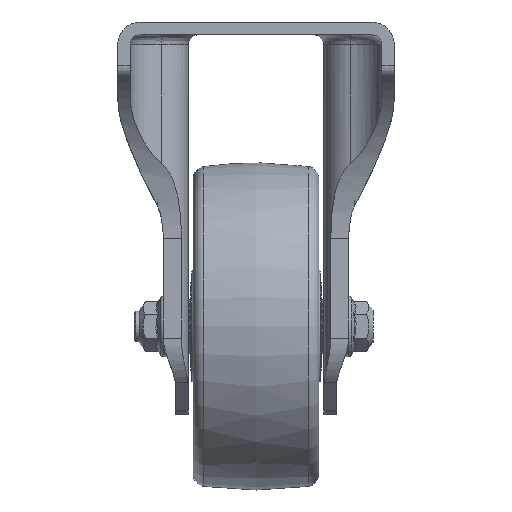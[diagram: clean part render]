
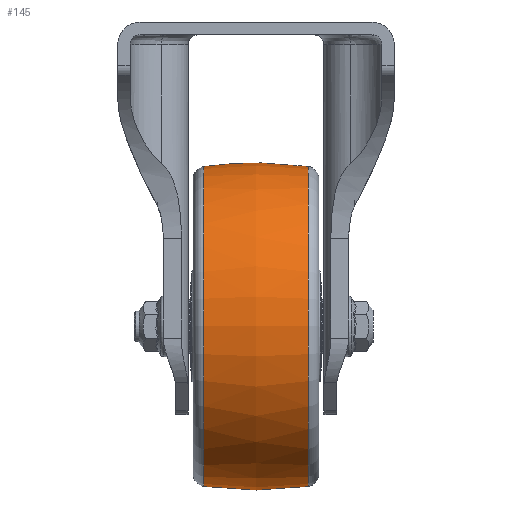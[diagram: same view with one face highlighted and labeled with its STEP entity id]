
A CAD part, left-side view. The second image highlights one B-rep face of the part: STEP entity #145.
In plain terms, the highlighted free-form (B-spline) face has degree [2, 2] with [3, 9] control points.
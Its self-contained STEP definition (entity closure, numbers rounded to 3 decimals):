
#73=CARTESIAN_POINT('',(-47.01,295.943,10.566));
#74=VERTEX_POINT('',#73);
#75=CARTESIAN_POINT('',(-47.01,295.943,-53.));
#76=DIRECTION('',(0.0,-1.0,0.0));
#77=DIRECTION('',(0.0,0.0,1.0));
#78=AXIS2_PLACEMENT_3D('',#75,#76,#77);
#79=CIRCLE('',#78,63.566);
#80=EDGE_CURVE('',#74,#74,#79,.T.);
#96=CARTESIAN_POINT('',(16.556,295.943,-53.));
#97=CARTESIAN_POINT('',(19.438,316.632,-53.));
#98=CARTESIAN_POINT('',(16.556,337.322,-53.));
#99=CARTESIAN_POINT('',(16.556,295.943,10.566));
#100=CARTESIAN_POINT('',(19.438,316.632,13.448));
#101=CARTESIAN_POINT('',(16.556,337.322,10.566));
#102=CARTESIAN_POINT('',(-47.01,295.943,10.566));
#103=CARTESIAN_POINT('',(-47.01,316.632,13.448));
#104=CARTESIAN_POINT('',(-47.01,337.322,10.566));
#105=CARTESIAN_POINT('',(-110.576,295.943,10.566));
#106=CARTESIAN_POINT('',(-113.458,316.632,13.448));
#107=CARTESIAN_POINT('',(-110.576,337.322,10.566));
#108=CARTESIAN_POINT('',(-110.576,295.943,-53.));
#109=CARTESIAN_POINT('',(-113.458,316.632,-53.));
#110=CARTESIAN_POINT('',(-110.576,337.322,-53.));
#111=CARTESIAN_POINT('',(-110.576,295.943,-116.566));
#112=CARTESIAN_POINT('',(-113.458,316.632,-119.448));
#113=CARTESIAN_POINT('',(-110.576,337.322,-116.566));
#114=CARTESIAN_POINT('',(-47.01,295.943,-116.566));
#115=CARTESIAN_POINT('',(-47.01,316.632,-119.448));
#116=CARTESIAN_POINT('',(-47.01,337.322,-116.566));
#117=CARTESIAN_POINT('',(16.556,295.943,-116.566));
#118=CARTESIAN_POINT('',(19.438,316.632,-119.448));
#119=CARTESIAN_POINT('',(16.556,337.322,-116.566));
#120=CARTESIAN_POINT('',(16.556,295.943,-53.));
#121=CARTESIAN_POINT('',(19.438,316.632,-53.));
#122=CARTESIAN_POINT('',(16.556,337.322,-53.));
#130=(BOUNDED_SURFACE()B_SPLINE_SURFACE(2,2,((#96,#99,#102,#105,#108,#111,#114,#117,#120),(#97,#100,#103,#106,#109,#112,#115,#118,#121),(#98,#101,#104,#107,#110,#113,#116,#119,#122)),.UNSPECIFIED.,.F.,.T.,.U.)B_SPLINE_SURFACE_WITH_KNOTS((3,3),(3,2,2,2,3),(-0.138,0.138),(0.0,1.571,3.142,4.712,6.283),.UNSPECIFIED.)GEOMETRIC_REPRESENTATION_ITEM()RATIONAL_B_SPLINE_SURFACE(((1.0,0.707,1.0,0.707,1.0,0.707,1.0,0.707,1.0),(0.99,0.7,0.99,0.7,0.99,0.7,0.99,0.7,0.99),(1.0,0.707,1.0,0.707,1.0,0.707,1.0,0.707,1.0)))REPRESENTATION_ITEM('')SURFACE());
#131=CARTESIAN_POINT('',(-47.01,337.322,10.566));
#132=VERTEX_POINT('',#131);
#133=CARTESIAN_POINT('',(-47.01,337.322,-53.));
#134=DIRECTION('',(0.0,-1.0,0.0));
#135=DIRECTION('',(0.0,0.0,1.0));
#136=AXIS2_PLACEMENT_3D('',#133,#134,#135);
#137=CIRCLE('',#136,63.566);
#138=EDGE_CURVE('',#132,#132,#137,.T.);
#139=ORIENTED_EDGE('',*,*,#138,.T.);
#140=EDGE_LOOP('',(#139));
#141=FACE_OUTER_BOUND('',#140,.T.);
#142=ORIENTED_EDGE('',*,*,#80,.F.);
#143=EDGE_LOOP('',(#142));
#144=FACE_BOUND('',#143,.T.);
#145=ADVANCED_FACE('',(#141,#144),#130,.T.);
